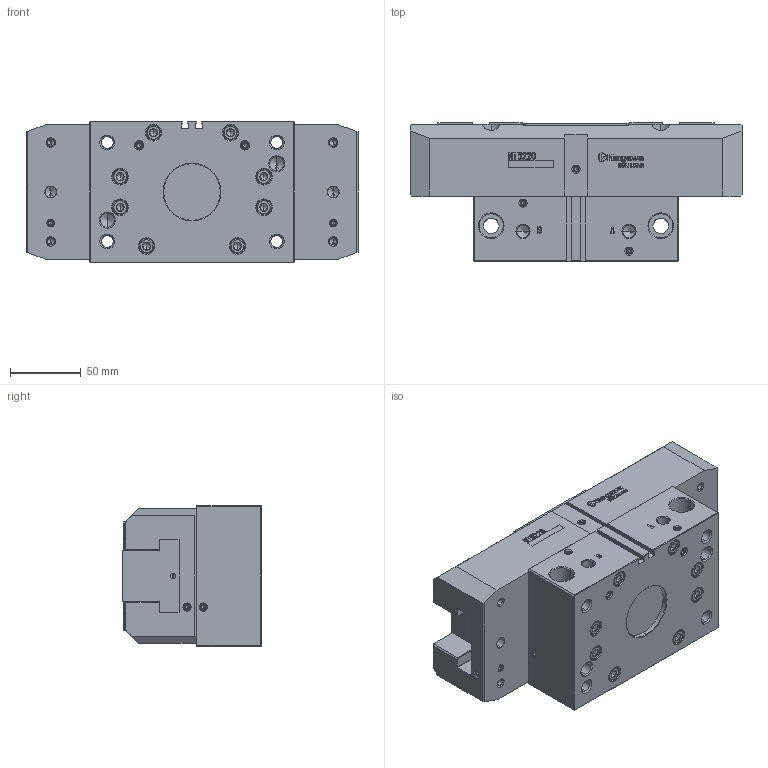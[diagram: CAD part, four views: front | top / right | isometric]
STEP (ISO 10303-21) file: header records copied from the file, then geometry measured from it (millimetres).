
FILE_DESCRIPTION (( 'STEP AP214' ), '1' );
FILE_NAME ('NTS220-OC.STEP', '2025-01-07T07:21:58', ( '' ), ( '' ), 'SwSTEP 2.0', 'SolidWorks 2022', '' );
FILE_SCHEMA (( 'AUTOMOTIVE_DESIGN' ));
Length unit declared in the file: millimetre
Products named in the file (9): COVER^HP-NTS220; BOLT^HP-NTS220; MASTER JAW^HP-NTS220; NTS220-OC; S-SARA^HP-NTS220; BODY^HP-NTS220; REAR BODY^HP-NTS220; S-TOME2^HP-NTS220; S-TOME1^HP-NTS220
Assembly tree (28 placements, depth 2):
  NTS220-OC
    BODY^HP-NTS220
    REAR BODY^HP-NTS220
    MASTER JAW^HP-NTS220  x2
    COVER^HP-NTS220
    BOLT^HP-NTS220  x8
    S-TOME1^HP-NTS220  x9
    S-TOME2^HP-NTS220  x2
    S-SARA^HP-NTS220  x4
Bounding box: 235 x 98 x 100 mm (x, y, z)
Volume: 1612658.2 mm3; surface area: 246973.8 mm2
Topology: 28 solids, 28 shells, 2038 faces, 5453 edges, 3488 vertices
Faces by surface type: plane 1299, cone 360, cylinder 259, bspline 120
Entity records: 56521 total; most frequent: CARTESIAN_POINT 16005, ORIENTED_EDGE 8590, DIRECTION 7409, EDGE_CURVE 4295, VECTOR 3509, LINE 3509, VERTEX_POINT 2810, AXIS2_PLACEMENT_3D 1950
